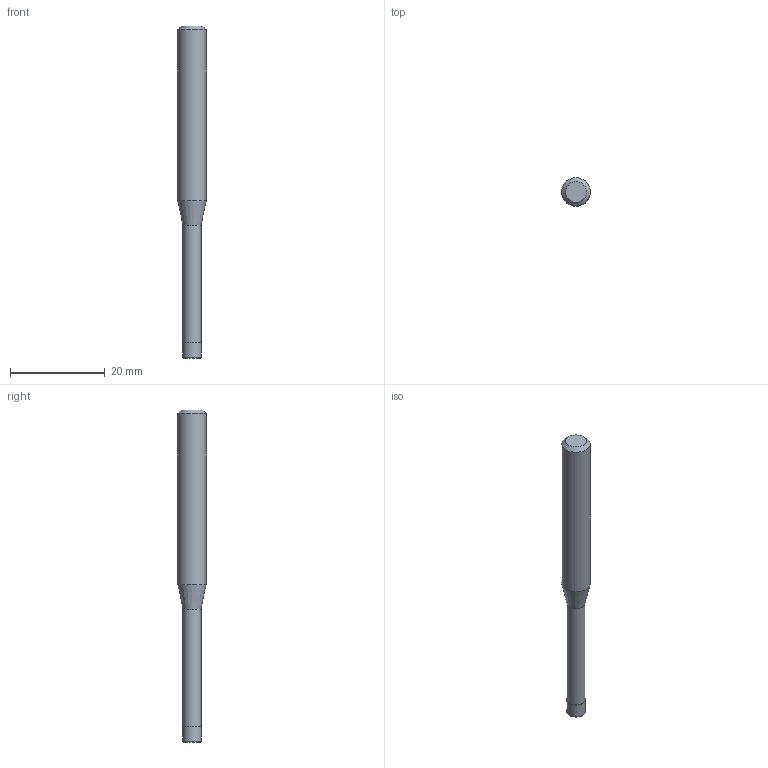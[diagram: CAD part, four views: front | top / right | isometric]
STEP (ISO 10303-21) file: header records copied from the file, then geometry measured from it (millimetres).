
FILE_DESCRIPTION((''),'2;1');
FILE_NAME('C:\Users\nsx150\AppData\Local\Temp\Mastercam 2021\CSMVKW3037\TEMP.step','2023-06-23T16:04:30',(''),(''),'STEP Write','Mastercam 2021 ... CNC Software, Inc.','');
FILE_SCHEMA(('AUTOMOTIVE_DESIGN'));
Length unit declared in the file: millimetre
Products named in the file (1): None
Bounding box: 6 x 6 x 70 mm (x, y, z)
Volume: 1456.3 mm3; surface area: 1165.8 mm2
Topology: 2 solids, 2 shells, 10 faces, 14 edges, 8 vertices
Faces by surface type: plane 4, cylinder 3, cone 2, torus 1
Full cylindrical faces by diameter (mm): 3.8 x1, 4 x1, 6 x1
Entity records: 232 total; most frequent: DIRECTION 40, CARTESIAN_POINT 28, AXIS2_PLACEMENT_3D 20, ORIENTED_EDGE 16, EDGE_LOOP 16, STYLED_ITEM 13, ADVANCED_FACE 10, FACE_BOUND 10
